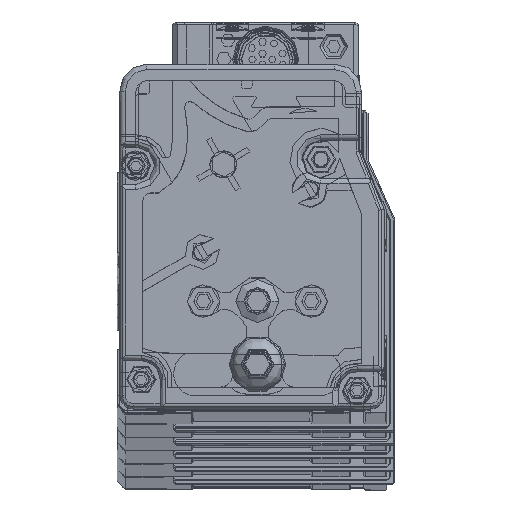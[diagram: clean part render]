
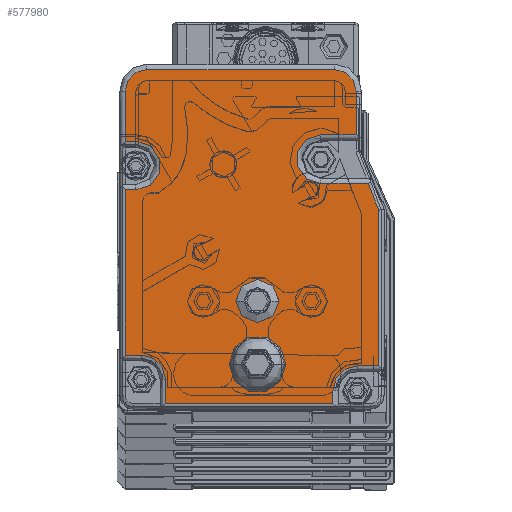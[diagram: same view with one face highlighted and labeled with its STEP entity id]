
A CAD part, top view. The second image highlights one B-rep face of the part: STEP entity #577980.
In plain terms, the highlighted planar face has unit normal (0, 0, 1).
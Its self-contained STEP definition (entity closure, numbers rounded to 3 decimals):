
#575870=CARTESIAN_POINT('',(-20.265,1.758,
3572.39));
#575880=DIRECTION('',(0.,0.,-1.));
#575890=DIRECTION('',(-1.,0.,0.));
#575900=AXIS2_PLACEMENT_3D('',#575870,#575880,#575890);
#575910=PLANE('',#575900);
#575920=CARTESIAN_POINT('',(-44.056,10.421,
3572.39));
#575930=DIRECTION('',(0.,0.,-1.));
#575940=DIRECTION('',(-1.,0.,0.));
#575950=AXIS2_PLACEMENT_3D('',#575920,#575930,#575940);
#575960=CIRCLE('',#575950,5.);
#575970=CARTESIAN_POINT('',(-49.056,10.421,
3572.39));
#575980=VERTEX_POINT('',#575970);
#575990=CARTESIAN_POINT('',(-39.056,10.421,
3572.39));
#576000=VERTEX_POINT('',#575990);
#576010=EDGE_CURVE('',#575980,#576000,#575960,.T.);
#576020=ORIENTED_EDGE('',*,*,#576010,.T.);
#576030=EDGE_CURVE('',#576000,#575980,#575960,.T.);
#576040=ORIENTED_EDGE('',*,*,#576030,.T.);
#576050=EDGE_LOOP('',(#576040,#576020));
#576060=FACE_BOUND('',#576050,.T.);
#576070=CARTESIAN_POINT('',(-44.059,22.124,
3572.39));
#576080=DIRECTION('',(0.,0.,1.));
#576090=DIRECTION('',(-1.,0.,0.));
#576100=AXIS2_PLACEMENT_3D('',#576070,#576080,#576090);
#576110=CIRCLE('',#576100,4.);
#576120=CARTESIAN_POINT('',(-40.059,22.124,
3572.39));
#576130=VERTEX_POINT('',#576120);
#576140=CARTESIAN_POINT('',(-48.059,22.124,
3572.39));
#576150=VERTEX_POINT('',#576140);
#576160=EDGE_CURVE('',#576130,#576150,#576110,.T.);
#576170=ORIENTED_EDGE('',*,*,#576160,.F.);
#576180=EDGE_CURVE('',#576150,#576130,#576110,.T.);
#576190=ORIENTED_EDGE('',*,*,#576180,.F.);
#576200=EDGE_LOOP('',(#576190,#576170));
#576210=FACE_BOUND('',#576200,.T.);
#576220=CARTESIAN_POINT('',(-61.059,2.124,
3572.39));
#576230=DIRECTION('',(0.,-1.,0.));
#576240=VECTOR('',#576230,1.);
#576250=LINE('',#576220,#576240);
#576260=CARTESIAN_POINT('',(-61.059,7.624,
3572.39));
#576270=VERTEX_POINT('',#576260);
#576280=CARTESIAN_POINT('',(-61.059,3.124,
3572.39));
#576290=VERTEX_POINT('',#576280);
#576300=EDGE_CURVE('',#576270,#576290,#576250,.T.);
#576310=ORIENTED_EDGE('',*,*,#576300,.T.);
#576320=CARTESIAN_POINT('',(-65.559,7.624,
3572.39));
#576330=DIRECTION('',(0.,0.,-1.));
#576340=DIRECTION('',(-1.,0.,0.));
#576350=AXIS2_PLACEMENT_3D('',#576320,#576330,#576340);
#576360=CIRCLE('',#576350,4.5);
#576370=CARTESIAN_POINT('',(-65.559,12.124,
3572.39));
#576380=VERTEX_POINT('',#576370);
#576390=EDGE_CURVE('',#576380,#576270,#576360,.T.);
#576400=ORIENTED_EDGE('',*,*,#576390,.T.);
#576410=CARTESIAN_POINT('',(-20.559,12.124,
3572.39));
#576420=DIRECTION('',(1.,0.,0.));
#576430=VECTOR('',#576420,1.);
#576440=LINE('',#576410,#576430);
#576450=CARTESIAN_POINT('',(-68.559,12.124,
3572.39));
#576460=VERTEX_POINT('',#576450);
#576470=EDGE_CURVE('',#576460,#576380,#576440,.T.);
#576480=ORIENTED_EDGE('',*,*,#576470,.T.);
#576490=CARTESIAN_POINT('',(-68.559,2.124,
3572.39));
#576500=DIRECTION('',(0.,-1.,0.));
#576510=VECTOR('',#576500,1.);
#576520=LINE('',#576490,#576510);
#576530=CARTESIAN_POINT('',(-68.559,42.727,
3572.39));
#576540=VERTEX_POINT('',#576530);
#576550=EDGE_CURVE('',#576540,#576460,#576520,.T.);
#576560=ORIENTED_EDGE('',*,*,#576550,.T.);
#576570=CARTESIAN_POINT('',(-20.559,42.727,
3572.39));
#576580=DIRECTION('',(-1.,0.,0.));
#576590=VECTOR('',#576580,1.);
#576600=LINE('',#576570,#576590);
#576610=CARTESIAN_POINT('',(-66.559,42.727,
3572.39));
#576620=VERTEX_POINT('',#576610);
#576630=EDGE_CURVE('',#576620,#576540,#576600,.T.);
#576640=ORIENTED_EDGE('',*,*,#576630,.T.);
#576650=CARTESIAN_POINT('',(-66.559,47.227,
3572.39));
#576660=DIRECTION('',(0.,0.,-1.));
#576670=DIRECTION('',(-1.,0.,0.));
#576680=AXIS2_PLACEMENT_3D('',#576650,#576660,#576670);
#576690=CIRCLE('',#576680,4.5);
#576700=CARTESIAN_POINT('',(-66.559,51.727,
3572.39));
#576710=VERTEX_POINT('',#576700);
#576720=EDGE_CURVE('',#576710,#576620,#576690,.T.);
#576730=ORIENTED_EDGE('',*,*,#576720,.T.);
#576740=CARTESIAN_POINT('',(-20.559,51.727,
3572.39));
#576750=DIRECTION('',(1.,0.,0.));
#576760=VECTOR('',#576750,1.);
#576770=LINE('',#576740,#576760);
#576780=CARTESIAN_POINT('',(-68.559,51.727,
3572.39));
#576790=VERTEX_POINT('',#576780);
#576800=EDGE_CURVE('',#576790,#576710,#576770,.T.);
#576810=ORIENTED_EDGE('',*,*,#576800,.T.);
#576820=CARTESIAN_POINT('',(-68.559,2.124,
3572.39));
#576830=DIRECTION('',(0.,-1.,0.));
#576840=VECTOR('',#576830,1.);
#576850=LINE('',#576820,#576840);
#576860=CARTESIAN_POINT('',(-68.559,61.024,
3572.39));
#576870=VERTEX_POINT('',#576860);
#576880=EDGE_CURVE('',#576870,#576790,#576850,.T.);
#576890=ORIENTED_EDGE('',*,*,#576880,.T.);
#576900=CARTESIAN_POINT('',(-64.559,61.024,
3572.39));
#576910=DIRECTION('',(0.,0.,1.));
#576920=DIRECTION('',(1.,0.,0.));
#576930=AXIS2_PLACEMENT_3D('',#576900,#576910,#576920);
#576940=CIRCLE('',#576930,4.);
#576950=CARTESIAN_POINT('',(-64.559,65.024,
3572.39));
#576960=VERTEX_POINT('',#576950);
#576970=EDGE_CURVE('',#576960,#576870,#576940,.T.);
#576980=ORIENTED_EDGE('',*,*,#576970,.T.);
#576990=CARTESIAN_POINT('',(-20.559,65.024,
3572.39));
#577000=DIRECTION('',(-1.,0.,0.));
#577010=VECTOR('',#577000,1.);
#577020=LINE('',#576990,#577010);
#577030=CARTESIAN_POINT('',(-29.759,65.024,
3572.39));
#577040=VERTEX_POINT('',#577030);
#577050=EDGE_CURVE('',#577040,#576960,#577020,.T.);
#577060=ORIENTED_EDGE('',*,*,#577050,.T.);
#577070=CARTESIAN_POINT('',(-29.759,61.024,
3572.39));
#577080=DIRECTION('',(0.,0.,1.));
#577090=DIRECTION('',(1.,0.,0.));
#577100=AXIS2_PLACEMENT_3D('',#577070,#577080,#577090);
#577110=CIRCLE('',#577100,4.);
#577120=CARTESIAN_POINT('',(-25.759,61.024,
3572.39));
#577130=VERTEX_POINT('',#577120);
#577140=EDGE_CURVE('',#577130,#577040,#577110,.T.);
#577150=ORIENTED_EDGE('',*,*,#577140,.T.);
#577160=CARTESIAN_POINT('',(-25.759,2.124,
3572.39));
#577170=DIRECTION('',(0.,1.,0.));
#577180=VECTOR('',#577170,1.);
#577190=LINE('',#577160,#577180);
#577200=CARTESIAN_POINT('',(-25.759,52.924,
3572.39));
#577210=VERTEX_POINT('',#577200);
#577220=EDGE_CURVE('',#577210,#577130,#577190,.T.);
#577230=ORIENTED_EDGE('',*,*,#577220,.T.);
#577240=CARTESIAN_POINT('',(-20.559,52.924,
3572.39));
#577250=DIRECTION('',(-1.,0.,0.));
#577260=VECTOR('',#577250,1.);
#577270=LINE('',#577240,#577260);
#577280=CARTESIAN_POINT('',(-32.309,52.924,
3572.39));
#577290=VERTEX_POINT('',#577280);
#577300=EDGE_CURVE('',#577210,#577290,#577270,.T.);
#577310=ORIENTED_EDGE('',*,*,#577300,.F.);
#577320=CARTESIAN_POINT('',(-32.309,48.424,
3572.39));
#577330=DIRECTION('',(0.,0.,-1.));
#577340=DIRECTION('',(-1.,0.,0.));
#577350=AXIS2_PLACEMENT_3D('',#577320,#577330,#577340);
#577360=CIRCLE('',#577350,4.5);
#577370=CARTESIAN_POINT('',(-32.309,43.924,
3572.39));
#577380=VERTEX_POINT('',#577370);
#577390=EDGE_CURVE('',#577380,#577290,#577360,.T.);
#577400=ORIENTED_EDGE('',*,*,#577390,.T.);
#577410=CARTESIAN_POINT('',(-20.559,43.924,
3572.39));
#577420=DIRECTION('',(-1.,0.,0.));
#577430=VECTOR('',#577420,1.);
#577440=LINE('',#577410,#577430);
#577450=CARTESIAN_POINT('',(-23.499,43.924,
3572.39));
#577460=VERTEX_POINT('',#577450);
#577470=EDGE_CURVE('',#577460,#577380,#577440,.T.);
#577480=ORIENTED_EDGE('',*,*,#577470,.T.);
#577490=CARTESIAN_POINT('',(-7.243,2.124,
3572.39));
#577500=DIRECTION('',(0.362,-0.932,0.));
#577510=VECTOR('',#577500,1.);
#577520=LINE('',#577490,#577510);
#577530=CARTESIAN_POINT('',(-21.559,38.937,
3572.39));
#577540=VERTEX_POINT('',#577530);
#577550=EDGE_CURVE('',#577460,#577540,#577520,.T.);
#577560=ORIENTED_EDGE('',*,*,#577550,.F.);
#577570=CARTESIAN_POINT('',(-21.559,2.124,
3572.39));
#577580=DIRECTION('',(0.,-1.,0.));
#577590=VECTOR('',#577580,1.);
#577600=LINE('',#577570,#577590);
#577610=CARTESIAN_POINT('',(-21.559,10.124,
3572.39));
#577620=VERTEX_POINT('',#577610);
#577630=EDGE_CURVE('',#577540,#577620,#577600,.T.);
#577640=ORIENTED_EDGE('',*,*,#577630,.F.);
#577650=CARTESIAN_POINT('',(-20.559,10.124,
3572.39));
#577660=DIRECTION('',(1.,0.,0.));
#577670=VECTOR('',#577660,1.);
#577680=LINE('',#577650,#577670);
#577690=CARTESIAN_POINT('',(-25.559,10.124,
3572.39));
#577700=VERTEX_POINT('',#577690);
#577710=EDGE_CURVE('',#577700,#577620,#577680,.T.);
#577720=ORIENTED_EDGE('',*,*,#577710,.T.);
#577730=CARTESIAN_POINT('',(-25.559,5.624,
3572.39));
#577740=DIRECTION('',(0.,0.,-1.));
#577750=DIRECTION('',(-1.,0.,0.));
#577760=AXIS2_PLACEMENT_3D('',#577730,#577740,#577750);
#577770=CIRCLE('',#577760,4.5);
#577780=CARTESIAN_POINT('',(-30.059,5.624,
3572.39));
#577790=VERTEX_POINT('',#577780);
#577800=EDGE_CURVE('',#577790,#577700,#577770,.T.);
#577810=ORIENTED_EDGE('',*,*,#577800,.T.);
#577820=CARTESIAN_POINT('',(-30.059,2.124,
3572.39));
#577830=DIRECTION('',(0.,1.,0.));
#577840=VECTOR('',#577830,1.);
#577850=LINE('',#577820,#577840);
#577860=CARTESIAN_POINT('',(-30.059,3.124,
3572.39));
#577870=VERTEX_POINT('',#577860);
#577880=EDGE_CURVE('',#577870,#577790,#577850,.T.);
#577890=ORIENTED_EDGE('',*,*,#577880,.T.);
#577900=CARTESIAN_POINT('',(-20.559,3.124,
3572.39));
#577910=DIRECTION('',(-1.,0.,0.));
#577920=VECTOR('',#577910,1.);
#577930=LINE('',#577900,#577920);
#577940=EDGE_CURVE('',#577870,#576290,#577930,.T.);
#577950=ORIENTED_EDGE('',*,*,#577940,.F.);
#577960=EDGE_LOOP('',(#577950,#577890,#577810,#577720,#577640,#577560,
#577480,#577400,#577310,#577230,#577150,#577060,#576980,#576890,#576810,
#576730,#576640,#576560,#576480,#576400,#576310));
#577970=FACE_OUTER_BOUND('',#577960,.T.);
#577980=ADVANCED_FACE('',(#576060,#576210,#577970),#575910,.F.);
